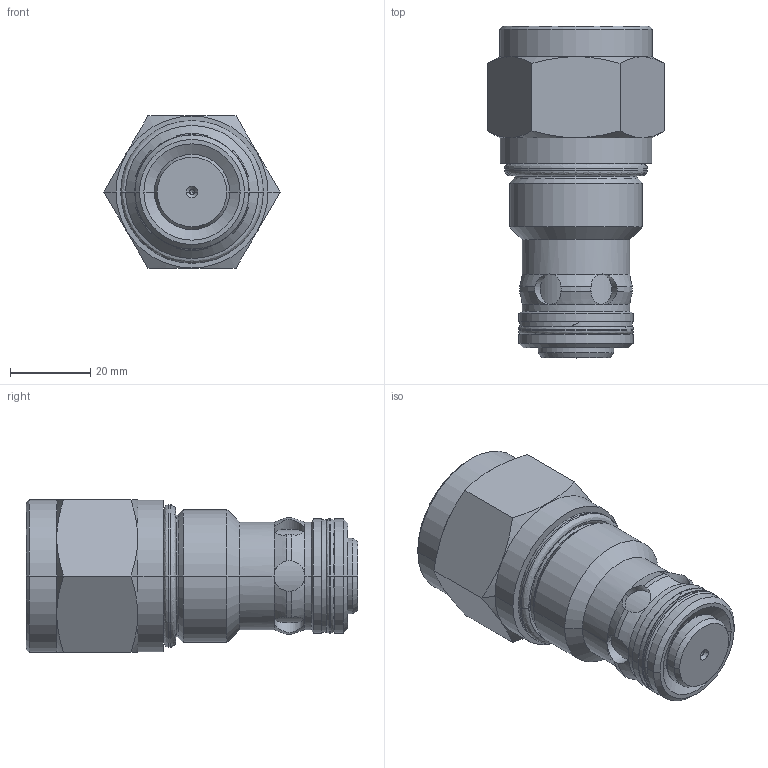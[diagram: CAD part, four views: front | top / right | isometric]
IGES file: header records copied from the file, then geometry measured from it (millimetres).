
Start section:  PTC IGES file: CVRP-16-_-_.igs
Global section: file name: CVRP-16-_-_.igs; native system: Creo Elements/Pro by Parametric Technology Corporation; preprocessor: 2015070; author: torrese; organization: Unknown; date: 20150904.135111; units: inch
Bounding box: 43.99 x 82.91 x 38.1 mm (x, y, z)
Volume: 73665.3 mm3; surface area: 12157.2 mm2
Topology: 1 solids, 1 shells, 121 faces, 286 edges, 173 vertices
Faces by surface type: revolution 103, bspline 18
